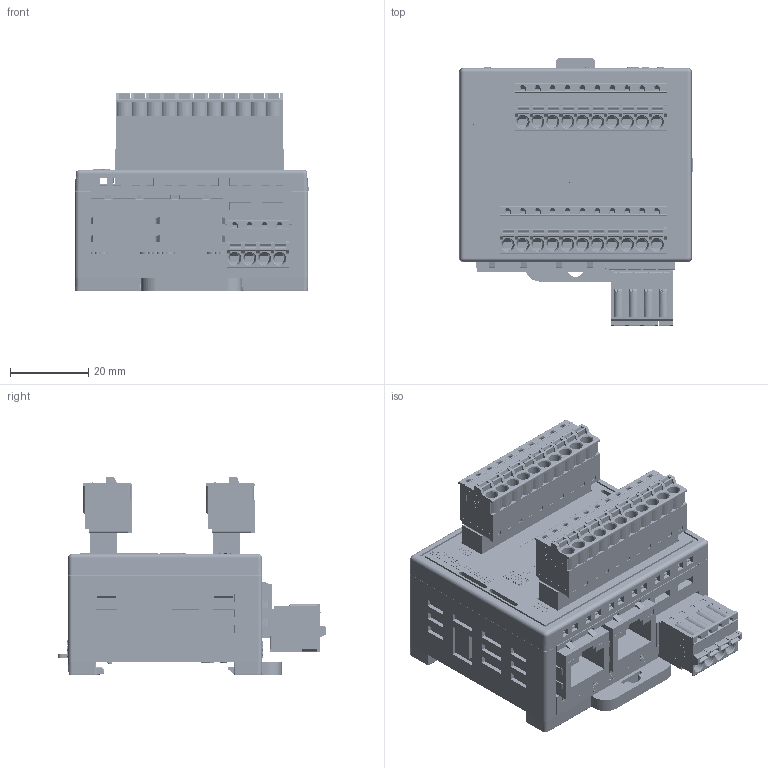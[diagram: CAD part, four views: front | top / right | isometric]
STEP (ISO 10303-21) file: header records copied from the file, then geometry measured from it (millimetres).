
FILE_DESCRIPTION((''),'2;1');
FILE_NAME('EICBP0FW','2026-05-11T14:41:59',('gijyu181'),(''),'CREO PARAMETRIC BY PTC INC, 2018050','CREO PARAMETRIC BY PTC INC, 2018050','');
FILE_SCHEMA(('CONFIG_CONTROL_DESIGN','SHAPE_APPEARANCE_LAYERS_GROUPS'));
Products named in the file (1): EICBP0FW
Bounding box: 59.75 x 68.55 x 50.7 mm (x, y, z)
Volume: 71057.9 mm3; surface area: 53384.1 mm2
Topology: 1 solids, 53 shells, 10049 faces, 28135 edges, 18504 vertices
Faces by surface type: plane 7197, cylinder 1605, extrusion 779, cone 274, sphere 94, torus 76, bspline 24
Entity records: 437354 total; most frequent: CARTESIAN_POINT 81344, ORIENTED_EDGE 54960, DIRECTION 47613, EDGE_CURVE 28121, VECTOR 22707, PRESENTATION_STYLE_ASSIGNMENT 22170, LINE 21928, STYLED_ITEM 18944
